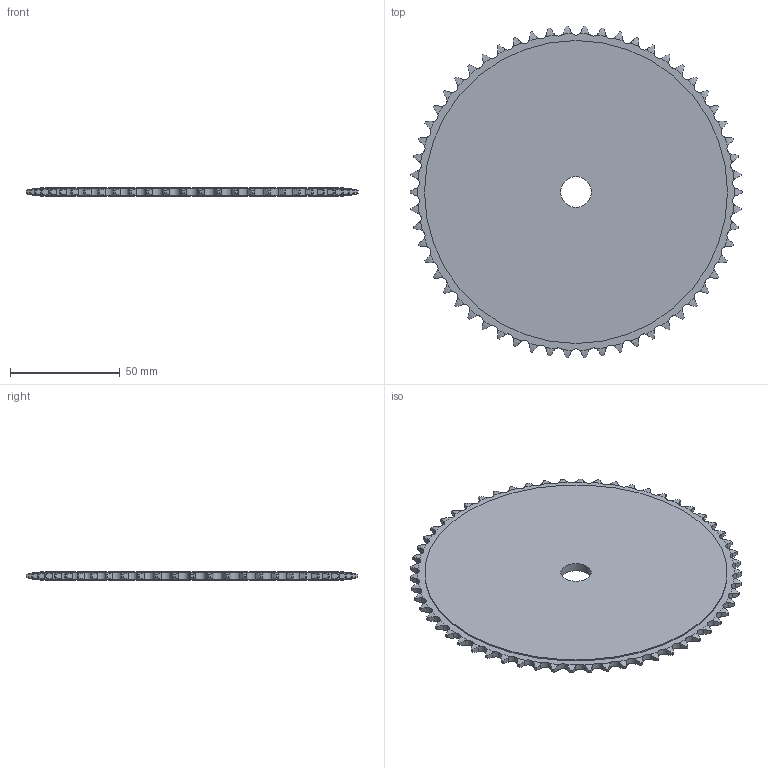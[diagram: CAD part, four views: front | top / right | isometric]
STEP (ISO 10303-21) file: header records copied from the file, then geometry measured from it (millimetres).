
FILE_DESCRIPTION((''),'2;1');
FILE_NAME('500-081-0058_PRT','2021-02-12T',('Brieden'),('Brieden'),'PRO/ENGINEER BY PARAMETRIC TECHNOLOGY CORPORATION, 2010160','PRO/ENGINEER BY PARAMETRIC TECHNOLOGY CORPORATION, 2010160','');
FILE_SCHEMA(('AUTOMOTIVE_DESIGN { 1 0 10303 214 1 1 1 1 }'));
Length unit declared in the file: millimetre
Products named in the file (1): 500-081-0058_PRT
Bounding box: 150.99 x 150.81 x 4 mm (x, y, z)
Volume: 63906.8 mm3; surface area: 35560.6 mm2
Topology: 1 solids, 1 shells, 358 faces, 1062 edges, 708 vertices
Faces by surface type: cylinder 238, torus 116, plane 4
Entity records: 16880 total; most frequent: CARTESIAN_POINT 4593, ORIENTED_EDGE 2124, DIRECTION 1674, PRESENTATION_STYLE_ASSIGNMENT 1063, STYLED_ITEM 1063, CURVE_STYLE 1062, EDGE_CURVE 1062, AXIS2_PLACEMENT_3D 718
